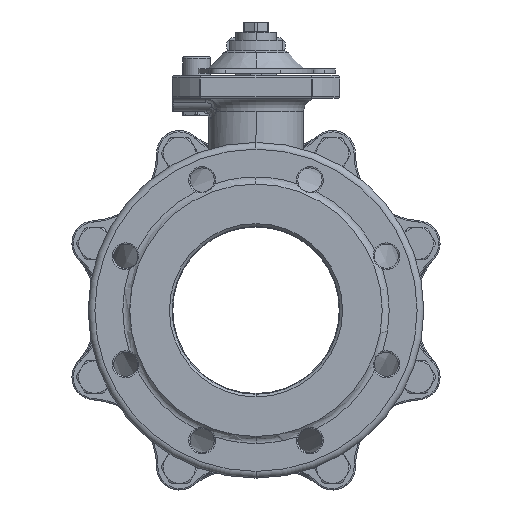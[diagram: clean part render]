
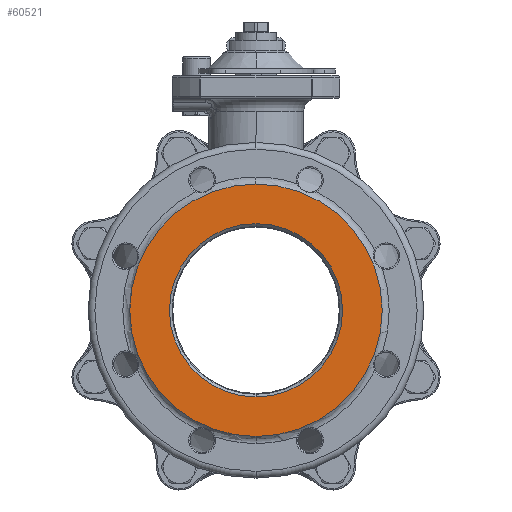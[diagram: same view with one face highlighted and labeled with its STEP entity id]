
A CAD part, left-side view. The second image highlights one B-rep face of the part: STEP entity #60521.
In plain terms, the highlighted planar face has unit normal (-1, 0, 0).
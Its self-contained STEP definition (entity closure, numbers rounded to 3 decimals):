
#27=CARTESIAN_POINT('',(-125.,0.,0.));
#28=DIRECTION('',(-1.,0.,0.));
#29=DIRECTION('',(0.,0.,-1.));
#30=AXIS2_PLACEMENT_3D('',#27,#28,#29);
#32=CARTESIAN_POINT('',(-125.,0.,0.));
#33=DIRECTION('',(-1.,0.,0.));
#34=DIRECTION('',(0.,0.,1.));
#35=AXIS2_PLACEMENT_3D('',#32,#33,#34);
#37=CARTESIAN_POINT('',(-125.,0.,0.));
#38=DIRECTION('',(-1.,0.,0.));
#39=DIRECTION('',(0.,0.,1.));
#40=AXIS2_PLACEMENT_3D('',#37,#38,#39);
#42=CARTESIAN_POINT('',(-125.,0.,0.));
#43=DIRECTION('',(1.,0.,0.));
#44=DIRECTION('',(0.,0.,1.));
#45=AXIS2_PLACEMENT_3D('',#42,#43,#44);
#49740=CARTESIAN_POINT('',(-125.,0.,64.5));
#49741=CARTESIAN_POINT('',(-125.,0.,-64.5));
#49742=VERTEX_POINT('',#49740);
#49743=VERTEX_POINT('',#49741);
#51570=CARTESIAN_POINT('',(-125.,0.,-94.));
#51571=CARTESIAN_POINT('',(-125.,0.,94.));
#51572=VERTEX_POINT('',#51570);
#51573=VERTEX_POINT('',#51571);
#60506=CARTESIAN_POINT('',(-125.,0.,0.));
#60507=DIRECTION('',(-1.,0.,0.));
#60508=DIRECTION('',(0.,0.,1.));
#60509=AXIS2_PLACEMENT_3D('',#60506,#60507,#60508);
#60510=PLANE('',#60509);
#60512=ORIENTED_EDGE('',*,*,#60511,.F.);
#60514=ORIENTED_EDGE('',*,*,#60513,.F.);
#60515=EDGE_LOOP('',(#60512,#60514));
#60516=FACE_OUTER_BOUND('',#60515,.F.);
#60517=ORIENTED_EDGE('',*,*,#60486,.T.);
#60518=ORIENTED_EDGE('',*,*,#60500,.F.);
#60519=EDGE_LOOP('',(#60517,#60518));
#60520=FACE_BOUND('',#60519,.F.);
#60521=ADVANCED_FACE('',(#60516,#60520),#60510,.T.);
#31=CIRCLE('',#30,94.);
#36=CIRCLE('',#35,94.);
#41=CIRCLE('',#40,64.5);
#46=CIRCLE('',#45,64.5);
#60486=EDGE_CURVE('',#49742,#49743,#41,.T.);
#60500=EDGE_CURVE('',#49742,#49743,#46,.T.);
#60511=EDGE_CURVE('',#51572,#51573,#31,.T.);
#60513=EDGE_CURVE('',#51573,#51572,#36,.T.);
